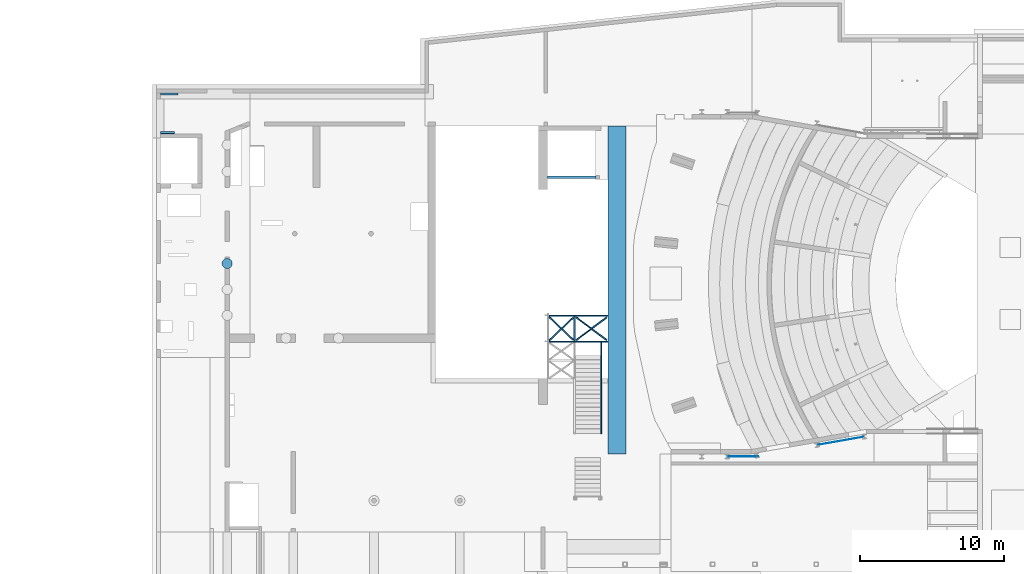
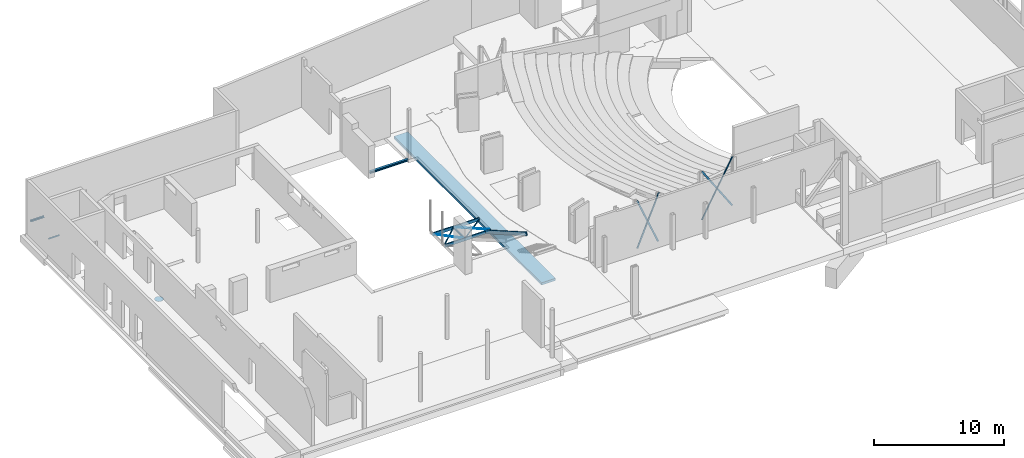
# One storey, part 16 of 34: 17 beams.
"""IFC2X3 building model written with IfcOpenShell, lengths in millimetres."""

from ifc_helpers import new_model, entity, si_unit, converted_unit, derived_unit, direction, frame, frame_2d, origin, origin_2d_with_axis, place, context, subcontext, project, spatial, polyline, circle_curve, parameter, trimmed, segment, composite_curve, rectangle, circle, outline, extrude, clip, halfspace, source, transform, mapped, material, type_object, type_shapes, element, save


model = new_model("IFC2X3")

# Units and contexts
model_context = context("Model", 3, precision=0.01, world=origin(), true_north=direction((6.12303176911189e-17, 1.0)))
body_context = subcontext(model_context, "Body", "Model", "MODEL_VIEW")
ifc_project = project(units=[si_unit("LENGTHUNIT", "METRE", prefix="MILLI"), si_unit("AREAUNIT", "SQUARE_METRE", prefix="MILLI"), si_unit("VOLUMEUNIT", "CUBIC_METRE"), converted_unit("PLANEANGLEUNIT", "DEGREE", entity("IfcRatioMeasure", 0.0174532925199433), si_unit("PLANEANGLEUNIT", "RADIAN"), dimensions=[0, 0, 0, 0, 0, 0, 0]), si_unit("MASSUNIT", "GRAM", prefix="KILO"), derived_unit("MASSDENSITYUNIT", [(si_unit("MASSUNIT", "GRAM", prefix="KILO"), 1), (si_unit("LENGTHUNIT", "METRE"), -3)]), derived_unit("MOMENTOFINERTIAUNIT", [(si_unit("LENGTHUNIT", "METRE"), 4)]), si_unit("TIMEUNIT", "SECOND"), si_unit("FREQUENCYUNIT", "HERTZ"), si_unit("THERMODYNAMICTEMPERATUREUNIT", "DEGREE_CELSIUS"), derived_unit("THERMALTRANSMITTANCEUNIT", [(si_unit("MASSUNIT", "GRAM", prefix="KILO"), 1), (si_unit("THERMODYNAMICTEMPERATUREUNIT", "KELVIN"), -1), (si_unit("TIMEUNIT", "SECOND"), -3)]), derived_unit("VOLUMETRICFLOWRATEUNIT", [(si_unit("LENGTHUNIT", "METRE"), 3), (si_unit("TIMEUNIT", "SECOND"), -1)]), si_unit("ELECTRICCURRENTUNIT", "AMPERE"), si_unit("ELECTRICVOLTAGEUNIT", "VOLT"), si_unit("POWERUNIT", "WATT"), si_unit("FORCEUNIT", "NEWTON", prefix="KILO"), si_unit("ILLUMINANCEUNIT", "LUX"), si_unit("LUMINOUSFLUXUNIT", "LUMEN"), si_unit("LUMINOUSINTENSITYUNIT", "CANDELA"), derived_unit("USERDEFINED", [(si_unit("MASSUNIT", "GRAM", prefix="KILO"), -1), (si_unit("LENGTHUNIT", "METRE"), -2), (si_unit("TIMEUNIT", "SECOND"), 3), (si_unit("LUMINOUSFLUXUNIT", "LUMEN"), 1)]), derived_unit("LINEARVELOCITYUNIT", [(si_unit("LENGTHUNIT", "METRE"), 1), (si_unit("TIMEUNIT", "SECOND"), -1)]), si_unit("PRESSUREUNIT", "PASCAL"), derived_unit("USERDEFINED", [(si_unit("LENGTHUNIT", "METRE"), -2), (si_unit("MASSUNIT", "GRAM", prefix="KILO"), 1), (si_unit("TIMEUNIT", "SECOND"), -2)]), derived_unit("LINEARFORCEUNIT", [(si_unit("MASSUNIT", "GRAM", prefix="KILO"), 1), (si_unit("LENGTHUNIT", "METRE"), 1), (si_unit("TIMEUNIT", "SECOND"), -2), (si_unit("LENGTHUNIT", "METRE"), -1)]), derived_unit("PLANARFORCEUNIT", [(si_unit("MASSUNIT", "GRAM", prefix="KILO"), 1), (si_unit("LENGTHUNIT", "METRE"), 1), (si_unit("TIMEUNIT", "SECOND"), -2), (si_unit("LENGTHUNIT", "METRE"), -2)])], contexts=[model_context])

# Site, building, storey
site_placement = place(None, origin())
site = spatial("IfcSite", under=ifc_project, at=site_placement, Name="Theater aan de Parade", CompositionType="ELEMENT")
building_placement = place(site_placement, origin())
building = spatial("IfcBuilding", under=site, at=building_placement, Name="Theater aan de Parade", CompositionType="ELEMENT")
storey_placement = place(building_placement, frame((0.0, 0.0, 3.49116848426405e-09)))
storey = spatial("IfcBuildingStorey", under=building, at=storey_placement, Name="00 begane grond", CompositionType="ELEMENT", Elevation=3.49116848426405e-09)

# Beams
ifc_material_1 = material(Name="00_PBT_MAT_staal_S355")
beam_type_1 = type_object("IfcBeamType", Name="28_PBT_SF_staal_L-profiel:S355_L150x150x15", PredefinedType="NOTDEFINED")
beam_1_placement = place(storey_placement, frame((10574.1125537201, 42912.5000000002, -3.2561863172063e-09)))
element("IfcBeam", 1, at=beam_1_placement, inside=storey, type_object=beam_type_1, material=ifc_material_1, Name="28_PBT_SF_staal_L-profiel:S355_L150x150x15", ObjectType="28_PBT_SF_staal_L-profiel:S355_L150x150x15", context=body_context, shape_type="SweptSolid", body=[
    extrude(outline(composite_curve([segment(polyline([(-93.3333333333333, -56.6666666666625), (56.6666666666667, -56.6666666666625)]), True, "CONTINUOUS"), segment(polyline([(56.6666666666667, -56.6666666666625), (56.6666666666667, 93.3333333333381)]), True, "CONTINUOUS"), segment(polyline([(56.6666666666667, 93.3333333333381), (49.6666666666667, 93.3333333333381)]), True, "CONTINUOUS"), segment(trimmed(circle_curve(frame_2d((49.6666666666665, 85.3333333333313), x_axis=(0.0, 1.0)), 7.99999999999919), [parameter(0.0)], [parameter(90.0000000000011)], True, "PARAMETER"), True, "CONTINUOUS"), segment(polyline([(41.6666666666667, 85.3333333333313), (41.6666666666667, -25.6666666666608)]), True, "CONTINUOUS"), segment(trimmed(circle_curve(frame_2d((25.6666666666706, -25.6666666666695), x_axis=(1.0, 0.0)), 15.9999999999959), [parameter(269.999999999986)], [parameter(0.0)], True, "PARAMETER"), False, "CONTINUOUS"), segment(polyline([(25.6666666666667, -41.6666666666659), (-85.3333333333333, -41.6666666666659)]), True, "CONTINUOUS"), segment(trimmed(circle_curve(frame_2d((-85.3333333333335, -49.666666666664), x_axis=(0.0, 1.0)), 7.99999999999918), [parameter(0.0)], [parameter(90.000000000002)], True, "PARAMETER"), True, "CONTINUOUS"), segment(polyline([(-93.3333333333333, -49.666666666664), (-93.3333333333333, -56.6666666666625)]), True, "CONTINUOUS")], self_intersect=False)), frame((0.0, 14.1666666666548, 1111.66666666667), z_axis=(1.0, 0.0, 0.0), x_axis=(0.0, 0.0, -1.0)), (0.0, 0.0, 1.0), 985.223015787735),
])
beam_2_placement = place(storey_placement, frame((10574.1125537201, 45680.4999999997, -3.2561863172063e-09)))
element("IfcBeam", 2, at=beam_2_placement, inside=storey, type_object=beam_type_1, material=ifc_material_1, Name="28_PBT_SF_staal_L-profiel:S355_L150x150x15", ObjectType="28_PBT_SF_staal_L-profiel:S355_L150x150x15", context=body_context, shape_type="SweptSolid", body=[
    extrude(outline(composite_curve([segment(polyline([(49.6666666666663, -93.3333333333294), (56.6666666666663, -93.3333333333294)]), True, "CONTINUOUS"), segment(polyline([(56.6666666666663, -93.3333333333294), (56.6666666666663, 56.6666666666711)]), True, "CONTINUOUS"), segment(polyline([(56.6666666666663, 56.6666666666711), (-93.3333333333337, 56.6666666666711)]), True, "CONTINUOUS"), segment(polyline([(-93.3333333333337, 56.6666666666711), (-93.3333333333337, 49.6666666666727)]), True, "CONTINUOUS"), segment(trimmed(circle_curve(frame_2d((-85.3333333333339, 49.6666666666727), x_axis=(-1.0, 0.0)), 7.99999999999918), [parameter(0.0)], [parameter(90.000000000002)], True, "PARAMETER"), True, "CONTINUOUS"), segment(polyline([(-85.3333333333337, 41.6666666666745), (25.6666666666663, 41.6666666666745)]), True, "CONTINUOUS"), segment(trimmed(circle_curve(frame_2d((25.6666666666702, 25.6666666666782), x_axis=(0.0, 1.0)), 15.9999999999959), [parameter(269.999999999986)], [parameter(0.0)], True, "PARAMETER"), False, "CONTINUOUS"), segment(polyline([(41.6666666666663, 25.6666666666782), (41.6666666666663, -85.3333333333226)]), True, "CONTINUOUS"), segment(trimmed(circle_curve(frame_2d((49.6666666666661, -85.3333333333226), x_axis=(-1.0, 0.0)), 7.99999999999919), [parameter(0.0)], [parameter(90.0000000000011)], True, "PARAMETER"), True, "CONTINUOUS")], self_intersect=False)), frame((0.0, -14.1666666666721, 1111.66666666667), z_axis=(1.0, 0.0, 0.0), x_axis=(0.0, 0.0, -1.0)), (0.0, 0.0, 1.0), 1205.21531551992),
])
beam_type_2 = type_object("IfcBeamType", Name="28_PBT_SF_staal_H-profiel (void):S355_HE200A", PredefinedType="NOTDEFINED")
beam_3_placement = place(storey_placement, frame((40838.8581275, 39850.0, 0.0), z_axis=(0.0, 0.0, 1.0), x_axis=(-1.0, 0.0, 0.0)))
element("IfcBeam", 3, at=beam_3_placement, inside=storey, type_object=beam_type_2, material=ifc_material_1, Name="28_PBT_SF_staal_H-profiel (void):S355_HE200A", ObjectType="28_PBT_SF_staal_H-profiel (void):S355_HE200A", context=body_context, shape_type="SweptSolid", body=[
    extrude(outline(composite_curve([segment(polyline([(85.0, -100.0), (95.0, -100.0)]), True, "CONTINUOUS"), segment(polyline([(95.0, -100.0), (95.0, 100.0)]), True, "CONTINUOUS"), segment(polyline([(95.0, 100.0), (85.0, 100.0)]), True, "CONTINUOUS"), segment(polyline([(85.0, 100.0), (85.0, 21.2500000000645)]), True, "CONTINUOUS"), segment(trimmed(circle_curve(frame_2d((67.0, 21.2500000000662), x_axis=(1.0, 0.0)), 17.9999999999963), [parameter(269.999999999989)], [parameter(0.0)], True, "PARAMETER"), False, "CONTINUOUS"), segment(polyline([(67.0, 3.25000000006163), (-67.0, 3.24999999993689)]), True, "CONTINUOUS"), segment(trimmed(circle_curve(frame_2d((-67.0, 21.2499999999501), x_axis=(0.0, -1.0)), 17.9999999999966), [parameter(269.999999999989)], [parameter(0.0)], True, "PARAMETER"), False, "CONTINUOUS"), segment(polyline([(-85.0, 21.2499999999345), (-85.0, 100.0)]), True, "CONTINUOUS"), segment(polyline([(-85.0, 100.0), (-95.0, 100.0)]), True, "CONTINUOUS"), segment(polyline([(-95.0, 100.0), (-95.0, -100.0)]), True, "CONTINUOUS"), segment(polyline([(-95.0, -100.0), (-85.0, -100.0)]), True, "CONTINUOUS"), segment(polyline([(-85.0, -100.0), (-85.0, -21.2500000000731)]), True, "CONTINUOUS"), segment(trimmed(circle_curve(frame_2d((-67.0, -21.2500000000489), x_axis=(-1.0, 0.0)), 17.9999999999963), [parameter(269.999999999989)], [parameter(0.0)], True, "PARAMETER"), False, "CONTINUOUS"), segment(polyline([(-67.0, -3.25000000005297), (67.0, -3.24999999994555)]), True, "CONTINUOUS"), segment(trimmed(circle_curve(frame_2d((67.0, -21.2499999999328), x_axis=(0.0, 1.0)), 17.9999999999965), [parameter(269.999999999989)], [parameter(0.0)], True, "PARAMETER"), False, "CONTINUOUS"), segment(polyline([(85.0, -21.2499999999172), (85.0, -100.0)]), True, "CONTINUOUS")], self_intersect=False)), frame((0.0, 0.0, -180.0), z_axis=(1.0, 0.0, 0.0), x_axis=(0.0, 0.0, -1.0)), (0.0, 0.0, 1.0), 3384.99999741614),
])
ifc_material_2 = material(Name="00_PBT_MAT_staal")
beam_type_3 = type_object("IfcBeamType", Name="28_PBT_SF_staal_strip:strip 10x150", PredefinedType="NOTDEFINED")
beam_4_placement = place(storey_placement, frame((56193.2454552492, 21244.1973974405, -240.0), z_axis=(0.836930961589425, -0.0626343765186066, -0.543712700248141), x_axis=(0.547308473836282, 0.0957789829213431, 0.831432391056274)))
element("IfcBeam", 4, at=beam_4_placement, inside=storey, type_object=beam_type_3, material=ifc_material_2, Name="28_PBT_SF_staal_strip:strip 10x150", ObjectType="28_PBT_SF_staal_strip:strip 10x150", context=body_context, shape_type="SweptSolid", body=[
    extrude(rectangle(XDim=150.000000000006, YDim=9.99999999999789, at=frame_2d((1.38689060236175e-12, -5.49960077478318e-12), x_axis=(0.0, 1.0))), frame((251.968080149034, 0.0, 0.0), z_axis=(1.0, 0.0, 0.0), x_axis=(0.0, -0.978558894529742, -0.205967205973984)), (0.0, 0.0, 1.0), 5523.6591417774),
])
beam_5_placement = place(storey_placement, frame((59491.1870358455, 21821.3371740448, -240.0), z_axis=(0.836930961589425, -0.0626343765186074, 0.543712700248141), x_axis=(-0.547308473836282, -0.0957789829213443, 0.831432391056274)))
element("IfcBeam", 5, at=beam_5_placement, inside=storey, type_object=beam_type_3, material=ifc_material_2, Name="28_PBT_SF_staal_strip:strip 10x150", ObjectType="28_PBT_SF_staal_strip:strip 10x150", context=body_context, shape_type="SweptSolid", body=[
    extrude(rectangle(XDim=149.999999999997, YDim=10.0000000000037, at=frame_2d((5.10169684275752e-12, 1.3864465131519e-12), x_axis=(1.0, 0.0))), frame((251.968080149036, 0.0, 0.0), z_axis=(1.0, 0.0, 0.0), x_axis=(0.0, -0.205967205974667, 0.978558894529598)), (0.0, 0.0, 1.0), 5523.6591417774),
])
beam_6_placement = place(storey_placement, frame((49950.2971178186, 20445.0, -392.917675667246), z_axis=(0.922249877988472, 0.0, -0.386594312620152), x_axis=(0.386594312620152, 0.0, 0.922249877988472)))
element("IfcBeam", 6, at=beam_6_placement, inside=storey, type_object=beam_type_3, material=ifc_material_2, Name="28_PBT_SF_staal_strip:strip 10x150", ObjectType="28_PBT_SF_staal_strip:strip 10x150", context=body_context, shape_type="SweptSolid", body=[
    extrude(rectangle(XDim=150.000000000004, YDim=9.99999999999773, at=origin_2d_with_axis()), frame((403.197367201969, 0.0, 0.0), z_axis=(1.0, 0.0, 0.0), x_axis=(0.0, 0.0, -1.0)), (0.0, 0.0, 1.0), 4966.58237397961),
])
beam_7_placement = place(storey_placement, frame((52150.5488159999, 20445.0, -462.993065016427), z_axis=(0.922249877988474, 0.0, 0.386594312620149), x_axis=(-0.386594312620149, 0.0, 0.922249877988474)))
element("IfcBeam", 7, at=beam_7_placement, inside=storey, type_object=beam_type_3, material=ifc_material_2, Name="28_PBT_SF_staal_strip:strip 10x150", ObjectType="28_PBT_SF_staal_strip:strip 10x150", context=body_context, shape_type="SweptSolid", body=[
    extrude(rectangle(XDim=150.000000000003, YDim=10.0000000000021, at=frame_2d((-9.33653154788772e-12, -2.16582307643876e-12), x_axis=(1.0, 0.0))), frame((500.374709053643, 0.0, 0.0), z_axis=(1.0, 0.0, 0.0), x_axis=(0.0, 0.0, -1.0)), (0.0, 0.0, 1.0), 4869.40503212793),
])
ifc_material_3 = material(Name="00_PBT_MAT_beton t.p.g._C30/37")
beam_type_4 = type_object("IfcBeamType", Name="28_PBT_SF_betonbalk:C30/37_1250x550", PredefinedType="NOTDEFINED")
beam_8_placement = place(storey_placement, frame((42278.8683762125, 20461.367453, -1.03275941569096e-09), z_axis=(0.0, 0.0, 1.0), x_axis=(0.0, 1.0, 0.0)))
element("IfcBeam", 8, at=beam_8_placement, inside=storey, type_object=beam_type_4, material=ifc_material_3, Name="28_PBT_SF_betonbalk:C30/37_1250x550", ObjectType="28_PBT_SF_betonbalk:C30/37_1250x550", context=body_context, shape_type="SweptSolid", body=[
    extrude(rectangle(XDim=230.000000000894, YDim=1250.00000000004, at=frame_2d((0.0, -3.46744855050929e-11), x_axis=(1.0, 0.0))), frame((150.0, 0.0, -525.0), z_axis=(1.0, 0.0, 0.0), x_axis=(0.0, 0.0, -1.0)), (0.0, 0.0, 1.0), 22788.6325470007),
])
beam_type_5 = type_object("IfcBeamType", Name="28_PBT_SF_staal_krans:28_PBT_SF_staal_krans_d=700_323.9", PredefinedType="BEAM", material=ifc_material_1)
shared_shape_1 = source(origin(), body_context, "Body", "SweptSolid", [
    clip(extrude(rectangle(XDim=150.000000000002, YDim=15.0, at=frame_2d((-7.105427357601e-15, -4.44089209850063e-15), x_axis=(1.0, 0.0))), frame((-118.475000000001, -205.204719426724, -175.0), z_axis=(0.0, 0.0, 1.0), x_axis=(0.499999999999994, 0.866025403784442, 0.0)), (0.0, 0.0, 1.0), 149.999999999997), halfspace(frame((-162.470190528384, -266.406624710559, -75.0), z_axis=(-0.277350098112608, -0.480384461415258, -0.832050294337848), x_axis=(0.866025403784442, -0.499999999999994, 0.0)), False)),
    clip(extrude(rectangle(XDim=150.000000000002, YDim=15.0, at=origin_2d_with_axis()), frame((118.474999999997, 205.204719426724, -175.0), z_axis=(0.0, 0.0, 1.0), x_axis=(0.499999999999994, 0.866025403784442, 0.0)), (0.0, 0.0, 1.0), 149.999999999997), halfspace(frame((149.479809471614, 273.906624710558, -75.0), z_axis=(0.277350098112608, 0.480384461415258, -0.832050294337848), x_axis=(0.866025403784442, -0.499999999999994, 0.0)), False)),
    clip(extrude(rectangle(XDim=150.000000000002, YDim=15.0, at=frame_2d((2.1316282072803e-14, 3.99680288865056e-15), x_axis=(1.0, 0.0))), frame((-118.475, 205.204719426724, -175.0), z_axis=(0.0, 0.0, 1.0), x_axis=(-0.499999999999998, 0.86602540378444, 0.0)), (0.0, 0.0, 1.0), 149.999999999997), halfspace(frame((-162.470190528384, 266.406624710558, -75.0), z_axis=(-0.277350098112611, 0.480384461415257, -0.832050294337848), x_axis=(0.86602540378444, 0.499999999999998, 0.0)), False)),
    clip(extrude(rectangle(XDim=150.000000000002, YDim=15.0, at=frame_2d((-2.1316282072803e-14, 4.44089209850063e-15), x_axis=(1.0, 0.0))), frame((118.475, -205.204719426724, -175.0), z_axis=(0.0, 0.0, 1.0), x_axis=(-0.499999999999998, 0.86602540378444, 0.0)), (0.0, 0.0, 1.0), 149.999999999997), halfspace(frame((149.479809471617, -273.906624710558, -75.0), z_axis=(0.277350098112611, -0.480384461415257, -0.832050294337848), x_axis=(0.86602540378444, 0.499999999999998, 0.0)), False)),
    clip(extrude(rectangle(XDim=15.0, YDim=150.000000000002, at=frame_2d((0.0, -1.4210854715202e-14), x_axis=(1.0, 0.0))), frame((236.950000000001, 0.0, -175.0), z_axis=(0.0, 0.0, 1.0), x_axis=(0.0, -1.0, 0.0)), (0.0, 0.0, 1.0), 149.999999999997), halfspace(frame((311.950000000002, -7.5, -75.0), z_axis=(0.554700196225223, 0.0, -0.832050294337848), x_axis=(0.0, 1.0, 0.0)), False)),
    clip(extrude(rectangle(XDim=15.0, YDim=150.000000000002, at=frame_2d((0.0, 1.4210854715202e-14), x_axis=(1.0, 0.0))), frame((-236.950000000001, 0.0, -175.0), z_axis=(0.0, 0.0, 1.0), x_axis=(0.0, -1.0, 0.0)), (0.0, 0.0, 1.0), 149.999999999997), halfspace(frame((-311.950000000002, -7.5, -75.0), z_axis=(-0.554700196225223, 0.0, -0.832050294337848), x_axis=(0.0, 1.0, 0.0)), False)),
    extrude(circle(Radius=350.0, at=frame_2d((6.76791955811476e-14, 5.85105723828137e-13), x_axis=(1.0, 0.0))), frame((0.0, 0.0, -25.0), z_axis=(0.0, 0.0, 1.0), x_axis=(-1.0, 0.0, 0.0)), (0.0, 0.0, 1.0), 25.0),
])
type_shapes(beam_type_5, [shared_shape_1])
beam_9_placement = place(storey_placement, frame((15203.8570025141, 33855.1469046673, -690.0), z_axis=(0.0, 0.0, 1.0), x_axis=(-1.0, 0.0, 0.0)))
element("IfcBeam", 9, at=beam_9_placement, inside=storey, type_object=beam_type_5, material=ifc_material_1, Name="28_PBT_SF_staal_krans:28_PBT_SF_staal_krans_d=700_323.9", ObjectType="28_PBT_SF_staal_krans:28_PBT_SF_staal_krans_d=700_323.9", context=body_context, shape_type="MappedRepresentation", body=[
    mapped(shared_shape_1, transform((0.0, 0.0, 0.0), scale=1.0)),
])
beam_type_6 = type_object("IfcBeamType", Name="28_PBT_SF_staal_trapboom_glas:trapboom", PredefinedType="BEAM", material=ifc_material_1)
shared_shape_2 = source(origin(), body_context, "Body", "Clipping", [
    clip(clip(extrude(rectangle(XDim=20.0000000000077, YDim=30.0000000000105, at=frame_2d((-3.11839443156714e-12, 8.66329230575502e-12), x_axis=(1.0, 0.0))), frame((41191.8281931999, 28383.9641886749, -291.515225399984), z_axis=(0.0, -0.866152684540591, 0.499779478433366), x_axis=(0.0, -0.499779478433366, -0.866152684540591)), (0.0, 0.0, 1.0), 7318.93536330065), halfspace(frame((50575.7665153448, 28378.9663938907, 1551.13520046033), z_axis=(0.0, 1.0, 0.0), x_axis=(-1.0, 0.0, 0.0)), False)), halfspace(frame((39781.7063235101, 23384.6316666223, 8359.77091390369), z_axis=(0.0, -0.965958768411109, 0.258696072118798), x_axis=(0.0, 0.258696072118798, 0.965958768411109)), False)),
    clip(clip(extrude(rectangle(XDim=310.000000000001, YDim=30.0000000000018, at=frame_2d((4.9737991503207e-13, 8.66329230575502e-12), x_axis=(1.0, 0.0))), frame((41221.8281931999, 28456.4322130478, -189.013703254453), z_axis=(0.0, -0.866152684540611, 0.499779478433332), x_axis=(0.0, -0.499779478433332, -0.866152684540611)), (0.0, 0.0, 1.0), 7402.78502180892), halfspace(frame((50575.7665153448, 28378.9663938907, 1551.13520046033), z_axis=(0.0, 1.0, 0.0), x_axis=(-1.0, 0.0, 0.0)), False)), halfspace(frame((39781.7063235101, 23384.6316666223, 8359.77091390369), z_axis=(0.0, -0.965958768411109, 0.258696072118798), x_axis=(0.0, 0.258696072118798, 0.965958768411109)), False)),
    clip(clip(extrude(rectangle(XDim=20.0000000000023, YDim=30.0000000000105, at=frame_2d((2.1520563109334e-12, 4.33164615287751e-12), x_axis=(1.0, 0.0))), frame((41191.8281931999, 28383.9641886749, -118.33559705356), z_axis=(0.0, -0.86615268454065, 0.499779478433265), x_axis=(0.0, -0.499779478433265, -0.86615268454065)), (0.0, 0.0, 1.0), 7272.55565115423), halfspace(frame((50575.7665153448, 28378.9663938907, 1551.13520046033), z_axis=(0.0, 1.0, 0.0), x_axis=(-1.0, 0.0, 0.0)), False)), halfspace(frame((39781.7063235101, 23384.6316666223, 8359.77091390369), z_axis=(0.0, -0.965958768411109, 0.258696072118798), x_axis=(0.0, 0.258696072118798, 0.965958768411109)), False)),
    clip(clip(extrude(rectangle(XDim=310.000000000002, YDim=29.9999999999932, at=frame_2d((4.9737991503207e-13, 0.0), x_axis=(1.0, 0.0))), frame((41161.8281931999, 28456.4322130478, -189.013703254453), z_axis=(0.0, -0.866152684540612, 0.49977947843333), x_axis=(0.0, -0.49977947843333, -0.866152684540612)), (0.0, 0.0, 1.0), 7402.78502180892), halfspace(frame((50575.7665153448, 28378.9663938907, 1551.13520046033), z_axis=(0.0, 1.0, 0.0), x_axis=(-1.0, 0.0, 0.0)), False)), halfspace(frame((39781.7063235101, 23384.6316666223, 8359.77091390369), z_axis=(0.0, -0.965958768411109, 0.258696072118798), x_axis=(0.0, 0.258696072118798, 0.965958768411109)), False)),
])
type_shapes(beam_type_6, [shared_shape_2])
beam_10_placement = place(storey_placement, frame((0.0, 0.0, -3.49116848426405e-09)))
element("IfcBeam", 10, at=beam_10_placement, inside=storey, type_object=beam_type_6, material=ifc_material_1, Name="28_PBT_SF_staal_trapboom_glas:trapboom", ObjectType="28_PBT_SF_staal_trapboom_glas:trapboom", context=body_context, shape_type="MappedRepresentation", body=[
    mapped(shared_shape_2, transform((0.0, 0.0, 0.0), scale=1.0)),
])
beam_type_7 = type_object("IfcBeamType", Name="28_PBT_SF_staal_koker:S355_K300x100x10", PredefinedType="NOTDEFINED")
beam_11_placement = place(storey_placement, frame((37536.8281932, 30219.7973483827, 0.0)))
element("IfcBeam", 11, at=beam_11_placement, inside=storey, type_object=beam_type_7, material=ifc_material_1, Name="28_PBT_SF_staal_koker:S355_K300x100x10", ObjectType="28_PBT_SF_staal_koker:S355_K300x100x10", context=body_context, shape_type="SweptSolid", body=[
    extrude(outline(composite_curve([segment(polyline([(-135.0, -50.0), (135.0, -50.0)]), True, "CONTINUOUS"), segment(trimmed(circle_curve(frame_2d((135.0, -35.0), x_axis=(0.0, 1.0)), 15.0), [parameter(180.0)], [parameter(270.0)], True, "PARAMETER"), True, "CONTINUOUS"), segment(polyline([(150.0, -35.0), (150.0, 35.0)]), True, "CONTINUOUS"), segment(trimmed(circle_curve(frame_2d((135.0, 35.0), x_axis=(0.0, 1.0)), 15.0), [parameter(270.0)], [parameter(360.0)], True, "PARAMETER"), True, "CONTINUOUS"), segment(polyline([(135.0, 50.0), (-135.0, 50.0)]), True, "CONTINUOUS"), segment(trimmed(circle_curve(frame_2d((-135.0, 35.0), x_axis=(0.0, 1.0)), 15.0), [parameter(0.0)], [parameter(90.0000000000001)], True, "PARAMETER"), True, "CONTINUOUS"), segment(polyline([(-150.0, 35.0), (-150.0, -35.0)]), True, "CONTINUOUS"), segment(trimmed(circle_curve(frame_2d((-135.0, -35.0), x_axis=(0.0, 1.0)), 15.0), [parameter(90.0)], [parameter(180.0)], True, "PARAMETER"), True, "CONTINUOUS")], self_intersect=False), holes=[composite_curve([segment(polyline([(140.0, 30.0), (140.0, -30.0)]), True, "CONTINUOUS"), segment(trimmed(circle_curve(frame_2d((130.0, -30.0), x_axis=(0.0, 1.0)), 10.0), [parameter(180.0)], [parameter(270.0)], True, "PARAMETER"), False, "CONTINUOUS"), segment(polyline([(130.0, -40.0), (-130.0, -40.0)]), True, "CONTINUOUS"), segment(trimmed(circle_curve(frame_2d((-130.0, -30.0), x_axis=(0.0, 1.0)), 10.0), [parameter(90.0)], [parameter(180.0)], True, "PARAMETER"), False, "CONTINUOUS"), segment(polyline([(-140.0, -30.0), (-140.0, 30.0)]), True, "CONTINUOUS"), segment(trimmed(circle_curve(frame_2d((-130.0, 30.0), x_axis=(0.0, 1.0)), 10.0), [parameter(4.07110999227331e-13)], [parameter(90.0000000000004)], True, "PARAMETER"), False, "CONTINUOUS"), segment(polyline([(-130.0, 40.0), (130.0, 40.0)]), True, "CONTINUOUS"), segment(trimmed(circle_curve(frame_2d((130.0, 30.0), x_axis=(0.0, 1.0)), 10.0), [parameter(270.0)], [parameter(0.0)], True, "PARAMETER"), False, "CONTINUOUS")], self_intersect=False)]), frame((0.0, 0.0, -210.0), z_axis=(1.0, 0.0, 0.0), x_axis=(0.0, 0.0, 1.0)), (0.0, 0.0, 1.0), 4117.04018301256),
])
beam_12_placement = place(storey_placement, frame((37536.8281932, 28428.9663938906, 0.0)))
element("IfcBeam", 12, at=beam_12_placement, inside=storey, type_object=beam_type_7, material=ifc_material_1, Name="28_PBT_SF_staal_koker:S355_K300x100x10", ObjectType="28_PBT_SF_staal_koker:S355_K300x100x10", context=body_context, shape_type="SweptSolid", body=[
    extrude(outline(composite_curve([segment(polyline([(-135.0, -50.0), (135.0, -50.0)]), True, "CONTINUOUS"), segment(trimmed(circle_curve(frame_2d((135.0, -35.0), x_axis=(0.0, 1.0)), 15.0), [parameter(180.0)], [parameter(270.0)], True, "PARAMETER"), True, "CONTINUOUS"), segment(polyline([(150.0, -35.0), (150.0, 35.0)]), True, "CONTINUOUS"), segment(trimmed(circle_curve(frame_2d((135.0, 35.0), x_axis=(0.0, 1.0)), 15.0), [parameter(270.0)], [parameter(360.0)], True, "PARAMETER"), True, "CONTINUOUS"), segment(polyline([(135.0, 50.0), (-135.0, 50.0)]), True, "CONTINUOUS"), segment(trimmed(circle_curve(frame_2d((-135.0, 35.0), x_axis=(0.0, 1.0)), 15.0), [parameter(0.0)], [parameter(90.0000000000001)], True, "PARAMETER"), True, "CONTINUOUS"), segment(polyline([(-150.0, 35.0), (-150.0, -35.0)]), True, "CONTINUOUS"), segment(trimmed(circle_curve(frame_2d((-135.0, -35.0), x_axis=(0.0, 1.0)), 15.0), [parameter(90.0)], [parameter(180.0)], True, "PARAMETER"), True, "CONTINUOUS")], self_intersect=False), holes=[composite_curve([segment(polyline([(140.0, 30.0), (140.0, -30.0)]), True, "CONTINUOUS"), segment(trimmed(circle_curve(frame_2d((130.0, -30.0), x_axis=(0.0, 1.0)), 10.0), [parameter(180.0)], [parameter(270.0)], True, "PARAMETER"), False, "CONTINUOUS"), segment(polyline([(130.0, -40.0), (-130.0, -40.0)]), True, "CONTINUOUS"), segment(trimmed(circle_curve(frame_2d((-130.0, -30.0), x_axis=(0.0, 1.0)), 10.0), [parameter(90.0)], [parameter(180.0)], True, "PARAMETER"), False, "CONTINUOUS"), segment(polyline([(-140.0, -30.0), (-140.0, 30.0)]), True, "CONTINUOUS"), segment(trimmed(circle_curve(frame_2d((-130.0, 30.0), x_axis=(0.0, 1.0)), 10.0), [parameter(4.07110999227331e-13)], [parameter(90.0000000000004)], True, "PARAMETER"), False, "CONTINUOUS"), segment(polyline([(-130.0, 40.0), (130.0, 40.0)]), True, "CONTINUOUS"), segment(trimmed(circle_curve(frame_2d((130.0, 30.0), x_axis=(0.0, 1.0)), 10.0), [parameter(270.0)], [parameter(0.0)], True, "PARAMETER"), False, "CONTINUOUS")], self_intersect=False)]), frame((0.0, 0.0, -210.0), z_axis=(1.0, 0.0, 0.0), x_axis=(0.0, 0.0, 1.0)), (0.0, 0.0, 1.0), 4117.04018301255),
])
ifc_material_4 = material(Name="00_PBT_MAT_staal_S235")
beam_type_8 = type_object("IfcBeamType", Name="28_PBT_SF_staal_koker:S235_K120x120x6.3", PredefinedType="NOTDEFINED")
beam_13_placement = place(storey_placement, frame((39341.8281931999, 28478.9663938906, 0.0), z_axis=(0.0, 0.0, 1.0), x_axis=(0.0, 1.0, 0.0)))
element("IfcBeam", 13, at=beam_13_placement, inside=storey, type_object=beam_type_8, material=ifc_material_4, Name="28_PBT_SF_staal_koker:S235_K120x120x6.3", ObjectType="28_PBT_SF_staal_koker:S235_K120x120x6.3", context=body_context, shape_type="SweptSolid", body=[
    extrude(outline(composite_curve([segment(polyline([(-50.55, -60.0), (50.55, -60.0)]), True, "CONTINUOUS"), segment(trimmed(circle_curve(frame_2d((50.55, -50.5500000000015), x_axis=(0.0, 1.0)), 9.45), [parameter(180.0)], [parameter(270.0)], True, "PARAMETER"), True, "CONTINUOUS"), segment(polyline([(60.0, -50.5500000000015), (60.0, 50.5500000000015)]), True, "CONTINUOUS"), segment(trimmed(circle_curve(frame_2d((50.55, 50.5500000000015), x_axis=(0.0, 1.0)), 9.45), [parameter(270.0)], [parameter(360.0)], True, "PARAMETER"), True, "CONTINUOUS"), segment(polyline([(50.55, 60.0), (-50.55, 60.0)]), True, "CONTINUOUS"), segment(trimmed(circle_curve(frame_2d((-50.55, 50.5500000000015), x_axis=(0.0, 1.0)), 9.45), [parameter(0.0)], [parameter(90.0000000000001)], True, "PARAMETER"), True, "CONTINUOUS"), segment(polyline([(-60.0, 50.5500000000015), (-60.0, -50.5500000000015)]), True, "CONTINUOUS"), segment(trimmed(circle_curve(frame_2d((-50.55, -50.5500000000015), x_axis=(0.0, 1.0)), 9.45), [parameter(90.0)], [parameter(180.0)], True, "PARAMETER"), True, "CONTINUOUS")], self_intersect=False), holes=[composite_curve([segment(polyline([(53.7, 47.3999999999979), (53.7, -47.3999999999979)]), True, "CONTINUOUS"), segment(trimmed(circle_curve(frame_2d((47.4, -47.3999999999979), x_axis=(0.0, 1.0)), 6.3), [parameter(180.0)], [parameter(270.0)], True, "PARAMETER"), False, "CONTINUOUS"), segment(polyline([(47.4, -53.6999999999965), (-47.4, -53.6999999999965)]), True, "CONTINUOUS"), segment(trimmed(circle_curve(frame_2d((-47.3999999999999, -47.3999999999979), x_axis=(0.0, 1.0)), 6.3), [parameter(90.0)], [parameter(180.0)], True, "PARAMETER"), False, "CONTINUOUS"), segment(polyline([(-53.7, -47.3999999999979), (-53.7, 47.3999999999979)]), True, "CONTINUOUS"), segment(trimmed(circle_curve(frame_2d((-47.3999999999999, 47.3999999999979), x_axis=(0.0, 1.0)), 6.3), [parameter(4.07110999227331e-13)], [parameter(90.0000000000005)], True, "PARAMETER"), False, "CONTINUOUS"), segment(polyline([(-47.3999999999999, 53.6999999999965), (47.4, 53.6999999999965)]), True, "CONTINUOUS"), segment(trimmed(circle_curve(frame_2d((47.4, 47.3999999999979), x_axis=(0.0, 1.0)), 6.3), [parameter(270.0)], [parameter(360.0)], True, "PARAMETER"), False, "CONTINUOUS")], self_intersect=False)]), frame((0.0, 0.0, -160.0), z_axis=(1.0, 0.0, 0.0), x_axis=(0.0, 0.0, 1.0)), (0.0, 0.0, 1.0), 1690.83095449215),
])
beam_type_9 = type_object("IfcBeamType", Name="28_PBT_SF_staal_strip:strip 100x15", PredefinedType="NOTDEFINED")
beam_14_placement = place(storey_placement, frame((39341.8281931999, 28450.0, 0.0), z_axis=(0.0, 0.0, 1.0), x_axis=(0.80236462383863, 0.596834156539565, 0.0)))
element("IfcBeam", 14, at=beam_14_placement, inside=storey, type_object=beam_type_9, material=ifc_material_2, Name="28_PBT_SF_staal_strip:strip 100x15", ObjectType="28_PBT_SF_staal_strip:strip 100x15", context=body_context, shape_type="SweptSolid", body=[
    extrude(rectangle(XDim=15.0, YDim=100.000000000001, at=frame_2d((1.68753899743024e-14, 4.32365254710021e-12), x_axis=(1.0, 0.0))), frame((134.752876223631, 0.0, -167.500000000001), z_axis=(1.0, 0.0, 0.0), x_axis=(0.0, 0.0, -1.0)), (0.0, 0.0, 1.0), 2653.14799233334),
])
beam_15_placement = place(storey_placement, frame((39281.8281931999, 28507.3988329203, 0.0), z_axis=(0.0, 0.0, 1.0), x_axis=(-0.722596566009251, 0.691269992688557, 0.0)))
element("IfcBeam", 15, at=beam_15_placement, inside=storey, type_object=beam_type_9, material=ifc_material_2, Name="28_PBT_SF_staal_strip:strip 100x15", ObjectType="28_PBT_SF_staal_strip:strip 100x15", context=body_context, shape_type="SweptSolid", body=[
    extrude(rectangle(XDim=15.0, YDim=99.9999999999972, at=frame_2d((-1.68753899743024e-14, 0.0), x_axis=(1.0, 0.0))), frame((58.5912268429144, 0.0, -167.500000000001), z_axis=(1.0, 0.0, 0.0), x_axis=(0.0, 0.0, -1.0)), (0.0, 0.0, 1.0), 2298.5191744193),
])
beam_16_placement = place(storey_placement, frame((39341.8281931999, 30198.7637422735, 0.0), z_axis=(0.0, 0.0, 1.0), x_axis=(0.80236462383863, -0.596834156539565, 0.0)))
element("IfcBeam", 16, at=beam_16_placement, inside=storey, type_object=beam_type_9, material=ifc_material_2, Name="28_PBT_SF_staal_strip:strip 100x15", ObjectType="28_PBT_SF_staal_strip:strip 100x15", context=body_context, shape_type="SweptSolid", body=[
    extrude(rectangle(XDim=15.0, YDim=100.000000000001, at=frame_2d((8.43769498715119e-15, 4.32365254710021e-12), x_axis=(1.0, 0.0))), frame((134.752876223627, 0.0, -152.500000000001), z_axis=(1.0, 0.0, 0.0), x_axis=(0.0, 0.0, -1.0)), (0.0, 0.0, 1.0), 2653.14799233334),
])
beam_17_placement = place(storey_placement, frame((39281.8281931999, 30141.3649093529, 0.0), z_axis=(0.0, 0.0, 1.0), x_axis=(-0.722596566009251, -0.691269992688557, 0.0)))
element("IfcBeam", 17, at=beam_17_placement, inside=storey, type_object=beam_type_9, material=ifc_material_2, Name="28_PBT_SF_staal_strip:strip 100x15", ObjectType="28_PBT_SF_staal_strip:strip 100x15", context=body_context, shape_type="SweptSolid", body=[
    extrude(rectangle(XDim=15.0, YDim=99.9999999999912, at=frame_2d((1.68753899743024e-14, 0.0), x_axis=(1.0, 0.0))), frame((58.59122684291, 0.0, -152.500000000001), z_axis=(1.0, 0.0, 0.0), x_axis=(0.0, 0.0, -1.0)), (0.0, 0.0, 1.0), 2298.5191744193),
])

save(model, "model.ifc")
